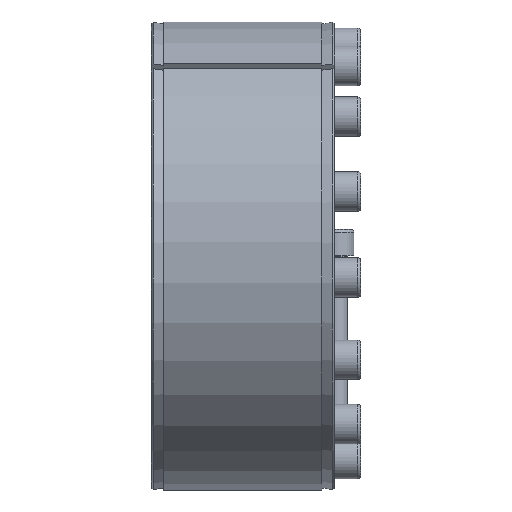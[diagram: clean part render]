
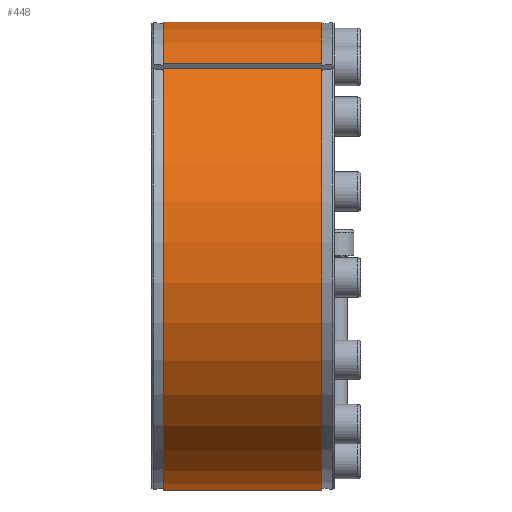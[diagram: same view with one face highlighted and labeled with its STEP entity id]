
A CAD part, left-side view. The second image highlights one B-rep face of the part: STEP entity #448.
In plain terms, the highlighted cylindrical face has radius 142.5 mm (diameter 285 mm), a partial arc.
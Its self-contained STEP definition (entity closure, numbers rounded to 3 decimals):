
#448 = ADVANCED_FACE( '', ( #787 ), #788, .T. );
#787 = FACE_OUTER_BOUND( '', #1124, .T. );
#788 = CYLINDRICAL_SURFACE( '', #1125, 142.5 );
#1124 = EDGE_LOOP( '', ( #1741, #1742, #1743, #1744 ) );
#1125 = AXIS2_PLACEMENT_3D( '', #1745, #1746, #1747 );
#1741 = ORIENTED_EDGE( '', *, *, #2321, .T. );
#1742 = ORIENTED_EDGE( '', *, *, #2285, .T. );
#1743 = ORIENTED_EDGE( '', *, *, #2344, .F. );
#1744 = ORIENTED_EDGE( '', *, *, #2428, .T. );
#1745 = CARTESIAN_POINT( '', ( 0., -60., 0. ) );
#1746 = DIRECTION( '', ( 0., 1., 0. ) );
#1747 = DIRECTION( '', ( 0., 0., -1. ) );
#2285 = EDGE_CURVE( '', #2605, #2603, #2606, .T. );
#2321 = EDGE_CURVE( '', #2671, #2605, #2672, .T. );
#2344 = EDGE_CURVE( '', #2713, #2603, #2714, .T. );
#2428 = EDGE_CURVE( '', #2713, #2671, #2856, .F. );
#2603 = VERTEX_POINT( '', #3045 );
#2605 = VERTEX_POINT( '', #3048 );
#2606 = LINE( '', #3049, #3050 );
#2671 = VERTEX_POINT( '', #3140 );
#2672 = CIRCLE( '', #3141, 142.5 );
#2713 = VERTEX_POINT( '', #3190 );
#2714 = CIRCLE( '', #3191, 142.5 );
#2856 = LINE( '', #3752, #3753 );
#3045 = CARTESIAN_POINT( '', ( -81.724, 7.5, 116.737 ) );
#3048 = CARTESIAN_POINT( '', ( -81.724, 103.5, 116.737 ) );
#3049 = CARTESIAN_POINT( '', ( -81.724, -60., 116.737 ) );
#3050 = VECTOR( '', #3890, 1000. );
#3140 = CARTESIAN_POINT( '', ( -85.769, 103.5, 113.798 ) );
#3141 = AXIS2_PLACEMENT_3D( '', #3967, #3968, #3969 );
#3190 = CARTESIAN_POINT( '', ( -85.769, 7.5, 113.798 ) );
#3191 = AXIS2_PLACEMENT_3D( '', #4026, #4027, #4028 );
#3752 = CARTESIAN_POINT( '', ( -85.769, -60., 113.798 ) );
#3753 = VECTOR( '', #4214, 1000. );
#3890 = DIRECTION( '', ( 0., -1., 0. ) );
#3967 = CARTESIAN_POINT( '', ( 0., 103.5, 0. ) );
#3968 = DIRECTION( '', ( 0., -1., 0. ) );
#3969 = DIRECTION( '', ( 0., 0., -1. ) );
#4026 = CARTESIAN_POINT( '', ( 0., 7.5, 0. ) );
#4027 = DIRECTION( '', ( 0., -1., 0. ) );
#4028 = DIRECTION( '', ( 0., 0., -1. ) );
#4214 = DIRECTION( '', ( 0., -1., 0. ) );
